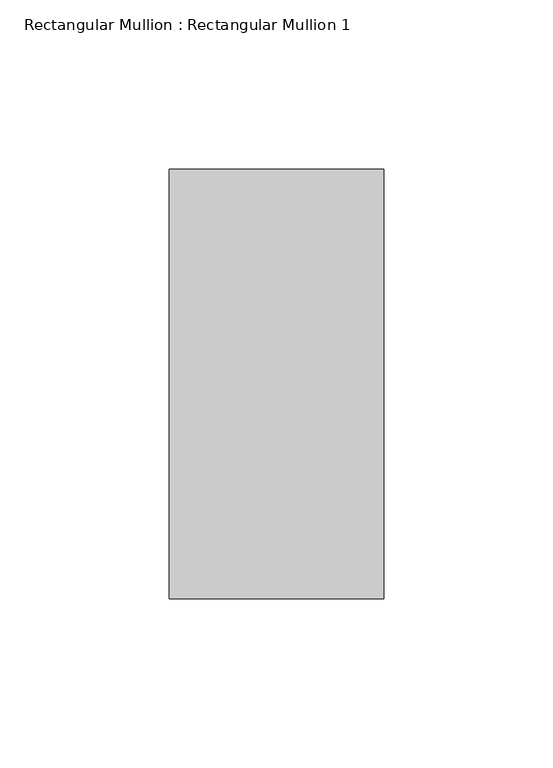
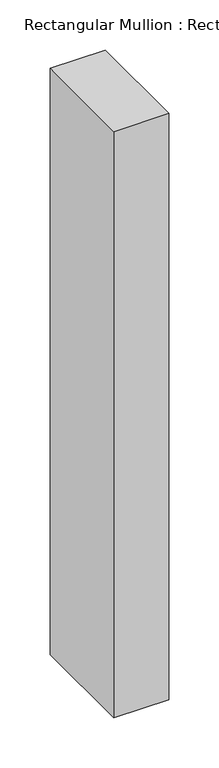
"""IFC4 building model written with IfcOpenShell, lengths in millimetres: member geometry, Rectangular Mullion : Rectangular Mullion 1."""

from ifc_helpers import new_model, si_unit, frame, origin, place, context, project, spatial, polyline, outline, extrude, source, transform, mapped, element, save


def rectangular_mullion_rectangular_mullion_1_a1888574(model_context):
    return source(origin(), model_context, "Body", "SweptSolid", [
        extrude(outline(polyline([(31.75, 63.5), (31.75, -63.5), (-31.75, -63.5), (-31.75, 63.5), (31.75, 63.5)])), frame((0.0, 0.0, -714.1129571), z_axis=(0.0, 0.0, 1.0), x_axis=(1.0, 0.0, 0.0)), (0.0, 0.0, 1.0), 714.1129571),
    ])


if __name__ == "__main__":
    model = new_model("IFC4")
    model_context = context("Model", 3, world=origin())
    ifc_project = project(units=[si_unit("LENGTHUNIT", "METRE", prefix="MILLI")], contexts=[model_context])
    site = spatial("IfcSite", under=ifc_project)
    building = spatial("IfcBuilding", under=site)
    placement = place(None, origin())
    rectangular_mullion_rectangular_mullion_1_shape = rectangular_mullion_rectangular_mullion_1_a1888574(model_context)
    element("IfcMember", 1, ObjectType="Rectangular Mullion : Rectangular Mullion 1", at=placement, inside=building, context=model_context, shape_type="MappedRepresentation", body=[
        mapped(rectangular_mullion_rectangular_mullion_1_shape, transform((0.0, 0.0, 0.0), x_axis=(1.0, 0.0, 0.0), y_axis=(0.0, 1.0, 0.0), z_axis=(0.0, 0.0, 1.0))),
    ])
    save(model, "model.ifc")
